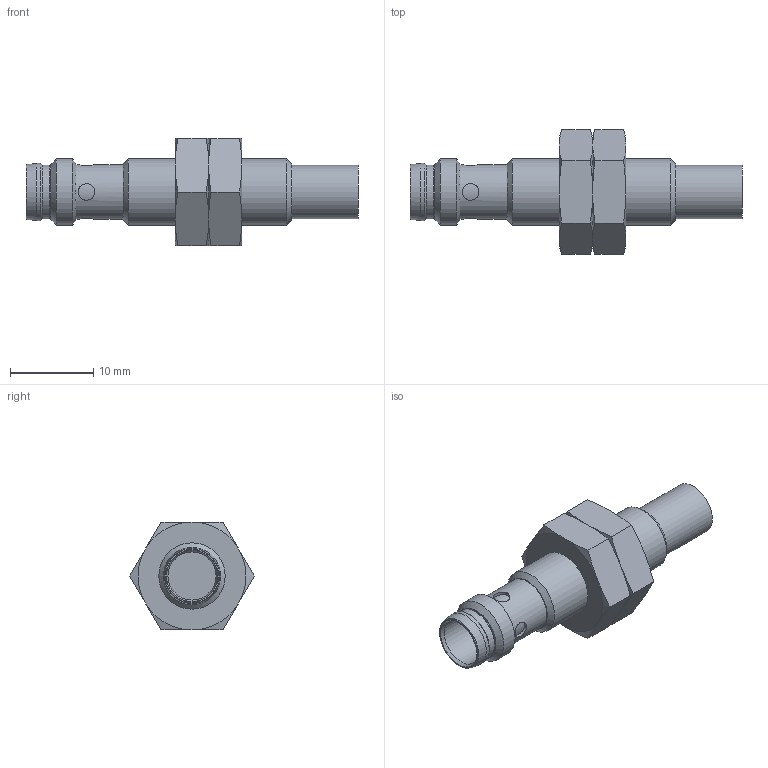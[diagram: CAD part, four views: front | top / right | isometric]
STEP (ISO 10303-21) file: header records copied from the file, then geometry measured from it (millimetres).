
FILE_DESCRIPTION( ( 'STEP AP203' ), ' ' );
FILE_NAME( 'p:/temp/worker_955/5336_2344/app_45_02017070714120181122323192d056f_000000_00_00_000000/format_2/IES201.stp', '2017-07-07T12:12:03', ( '' ), ( '' ), ' ', 'PARTsolutions', ' ' );
FILE_SCHEMA( ( 'CONFIG_CONTROL_DESIGN' ) );
Length unit declared in the file: millimetre
Products named in the file (3): IES201; _IES201_part1; _IES200_part2
Assembly tree (3 placements, depth 2):
  IES201
    _IES201_part1
    _IES200_part2  x2
Bounding box: 40 x 15.01 x 13 mm (x, y, z)
Volume: 2428.9 mm3; surface area: 2056.4 mm2
Topology: 3 solids, 3 shells, 77 faces, 151 edges, 87 vertices
Faces by surface type: cone 36, plane 22, cylinder 18, torus 1
Full cylindrical faces by diameter (mm): 2 x4, 5.8 x1, 6.36 x1, 6.45 x1, 6.5 x1, 6.6 x1, 6.9 x1, 6.917 x2, 8 x2
Entity records: 1594 total; most frequent: CARTESIAN_POINT 536, DIRECTION 198, ORIENTED_EDGE 152, AXIS2_PLACEMENT_3D 96, EDGE_LOOP 88, EDGE_CURVE 76, FACE_OUTER_BOUND 68, VERTEX_POINT 58
